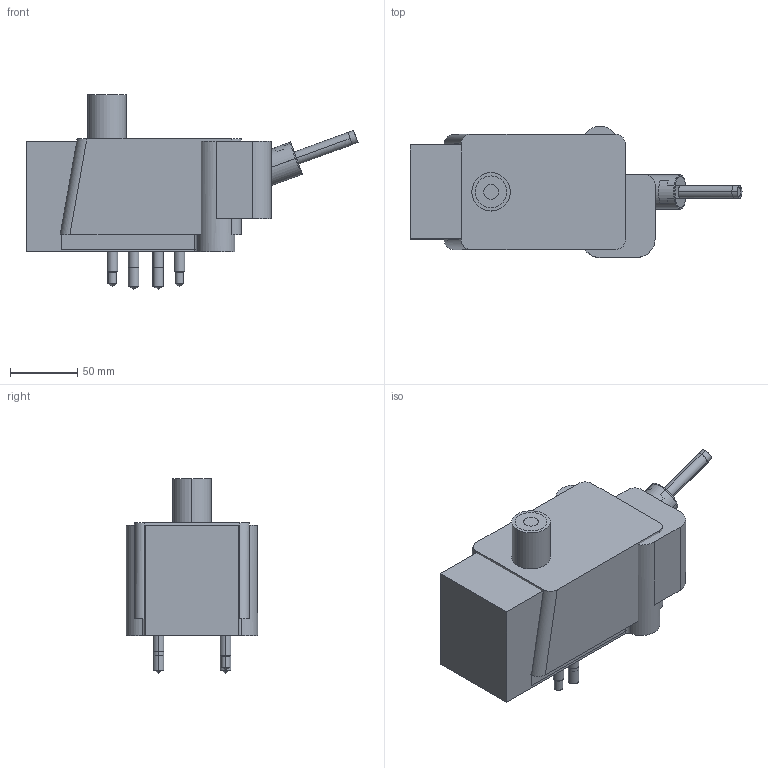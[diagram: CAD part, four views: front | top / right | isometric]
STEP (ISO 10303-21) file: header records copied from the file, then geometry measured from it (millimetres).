
FILE_DESCRIPTION((' '),'2;1');
FILE_NAME( 'EZ-20-S-L.stp', '2024-07-17T08:02:46', (' '), ('--- Datakit www.datakit.com---'), ' Datakit CrossCadWare V2020.4 Oct 21 2020', 'Export from SolidLink (Hexagon Production Software)', ' ');
FILE_SCHEMA(('AP242_MANAGED_MODEL_BASED_3D_ENGINEERING_MIM_LF { 1 0 10303 442 1 1 4 }'));
Length unit declared in the file: millimetre
Products named in the file (134): Workplanes; 1700841732; 1700504761; 1679435622; 1679435621; 1679435620; 1679435619; 1679435618; 1679435613; 1679435601; 1679435595; 1679435594; 1679435591; 1679435590; 1679435589; 1700493231; 1701204118; 1701283434; 1721289841; 1721294410; 1721294411; 1721294412; 1721294413; 1721294414; 1721294415; 1721294416; 1721294417; 1721294418; 1721294419; 1721294420; 1721294421; 1721294422; 1721294423; 1721294424; 1721294425; 1721294426; 1721294427; 1721294428; 1721294429; 1721294430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
Bounding box: 247.42 x 97.75 x 144.89 mm (x, y, z)
Volume: 2585970.5 mm3; surface area: 231877.9 mm2
Topology: 17 solids, 18 shells, 451 faces, 1301 edges, 1108 vertices
Faces by surface type: cylinder 182, plane 153, cone 104, sphere 6, torus 4, bspline 2
Entity records: 18132 total; most frequent: CARTESIAN_POINT 4651, DIRECTION 2710, ORIENTED_EDGE 2122, AXIS2_PLACEMENT_3D 1071, EDGE_CURVE 1067, VERTEX_POINT 684, VECTOR 568, LINE 568
